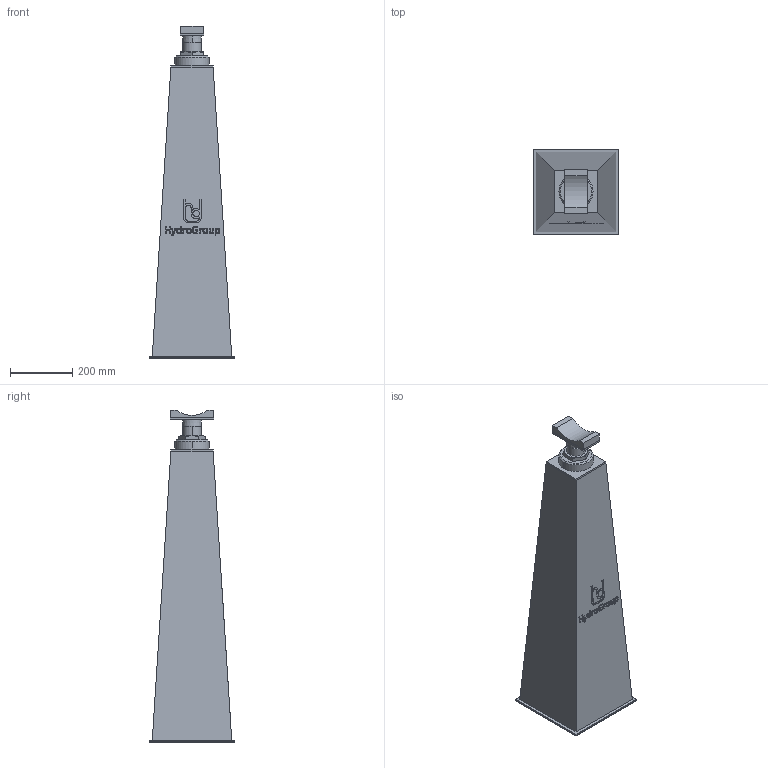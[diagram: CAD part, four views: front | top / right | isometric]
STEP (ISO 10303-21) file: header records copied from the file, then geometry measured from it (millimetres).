
FILE_DESCRIPTION(('STEP AP214'),'1');
FILE_NAME('RSRFE-III_DN150.stp','2018-06-28T11:33:31',(' '),(' '),'Spatial InterOp 3D',' ',' ');
FILE_SCHEMA(('automotive_design'));
Length unit declared in the file: millimetre
Products named in the file (6): 1; 2; 3; 4; 5; 6
Bounding box: 276.01 x 276.01 x 1067 mm (x, y, z)
Volume: 38608013.6 mm3; surface area: 1141576.7 mm2
Topology: 6 solids, 6 shells, 222 faces, 548 edges, 357 vertices
Faces by surface type: plane 144, cylinder 30, extrusion 24, cone 20, torus 4
Entity records: 8944 total; most frequent: CARTESIAN_POINT 1807, ORIENTED_EDGE 1096, DIRECTION 1011, EDGE_CURVE 548, VECTOR 421, LINE 397, VERTEX_POINT 357, AXIS2_PLACEMENT_3D 295
